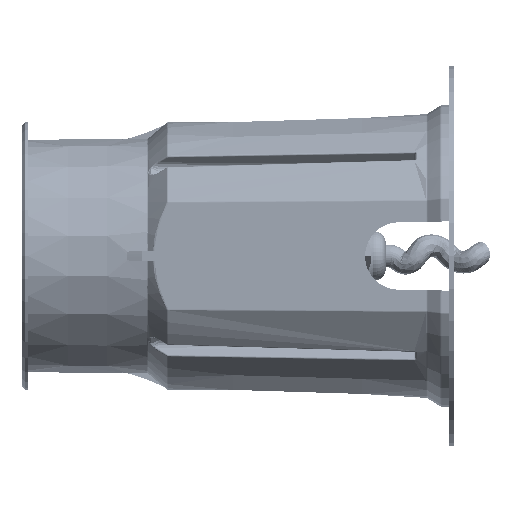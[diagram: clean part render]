
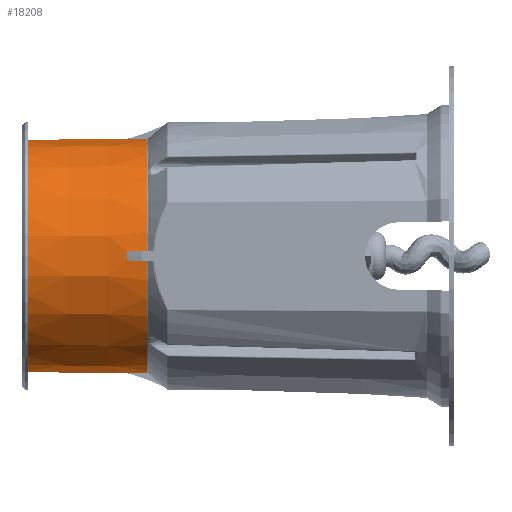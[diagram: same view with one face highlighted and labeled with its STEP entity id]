
A CAD part, left-side view. The second image highlights one B-rep face of the part: STEP entity #18208.
In plain terms, the highlighted conical face has half-angle 0.5 degrees and reference radius 41.518 mm.
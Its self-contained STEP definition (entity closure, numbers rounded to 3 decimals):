
#2160=CARTESIAN_POINT('',(0.,173.697,0.));
#2161=DIRECTION('',(0.,1.,0.));
#2162=DIRECTION('',(-0.999,0.,0.041));
#2163=AXIS2_PLACEMENT_3D('',#2160,#2161,#2162);
#2241=DIRECTION('',(0.,-1.,0.009));
#2242=VECTOR('',#2241,35.073);
#2243=CARTESIAN_POINT('',(0.,215.752,41.334));
#2244=LINE('',#2243,#2242);
#2245=CARTESIAN_POINT('',(-1.579,180.68,41.61));
#2246=CARTESIAN_POINT('',(-1.62,178.352,41.629));
#2247=CARTESIAN_POINT('',(-1.662,176.025,41.648));
#2248=CARTESIAN_POINT('',(-1.703,173.697,41.666));
#2250=CARTESIAN_POINT('',(-41.666,173.697,1.703));
#2251=CARTESIAN_POINT('',(-41.648,176.025,1.662));
#2252=CARTESIAN_POINT('',(-41.629,178.352,1.62));
#2253=CARTESIAN_POINT('',(-41.61,180.68,1.579));
#2255=CARTESIAN_POINT('',(-41.61,180.68,
-1.579));
#2256=CARTESIAN_POINT('',(-41.629,178.352,
-1.62));
#2257=CARTESIAN_POINT('',(-41.648,176.025,-1.662));
#2258=CARTESIAN_POINT('',(-41.666,173.697,
-1.703));
#2260=CARTESIAN_POINT('',(-1.703,173.697,
-41.666));
#2261=CARTESIAN_POINT('',(-1.662,176.025,
-41.648));
#2262=CARTESIAN_POINT('',(-1.62,178.352,
-41.629));
#2263=CARTESIAN_POINT('',(-1.579,180.68,
-41.61));
#2270=CARTESIAN_POINT('',(0.,215.752,0.));
#2271=DIRECTION('',(0.,-1.,0.));
#2272=DIRECTION('',(0.,0.,1.));
#2273=AXIS2_PLACEMENT_3D('',#2270,#2271,#2272);
#2315=DIRECTION('',(0.,-1.,-0.009));
#2316=VECTOR('',#2315,35.073);
#2317=CARTESIAN_POINT('',(0.,215.752,
-41.334));
#2318=LINE('',#2317,#2316);
#2354=CARTESIAN_POINT('',(0.,180.68,
0.));
#2355=DIRECTION('',(0.,1.,0.));
#2356=DIRECTION('',(0.,0.,-1.));
#2357=AXIS2_PLACEMENT_3D('',#2354,#2355,#2356);
#2438=CARTESIAN_POINT('',(0.,173.697,0.));
#2439=DIRECTION('',(0.,1.,0.));
#2440=DIRECTION('',(-0.041,0.,-0.999));
#2441=AXIS2_PLACEMENT_3D('',#2438,#2439,#2440);
#2448=CARTESIAN_POINT('',(-1.703,173.697,
-41.666));
#2460=CARTESIAN_POINT('',(-1.579,180.68,
-41.61));
#2488=CARTESIAN_POINT('',(0.,180.68,
0.));
#2489=DIRECTION('',(0.,1.,0.));
#2490=DIRECTION('',(-0.999,0.,-0.038));
#2491=AXIS2_PLACEMENT_3D('',#2488,#2489,#2490);
#3973=CARTESIAN_POINT('',(0.,180.68,
0.));
#3974=DIRECTION('',(0.,1.,0.));
#3975=DIRECTION('',(-0.038,0.,0.999));
#3976=AXIS2_PLACEMENT_3D('',#3973,#3974,#3975);
#14736=VERTEX_POINT('',#2448);
#14737=CARTESIAN_POINT('',(-41.666,173.697,
-1.703));
#14738=VERTEX_POINT('',#14737);
#14739=VERTEX_POINT('',#2460);
#14741=CARTESIAN_POINT('',(0.,180.68,-41.64));
#14742=VERTEX_POINT('',#14741);
#14743=CARTESIAN_POINT('',(0.,215.752,-41.334));
#14744=CARTESIAN_POINT('',(0.,215.752,
41.334));
#14745=VERTEX_POINT('',#14743);
#14746=VERTEX_POINT('',#14744);
#14753=CARTESIAN_POINT('',(0.,180.68,
41.64));
#14754=VERTEX_POINT('',#14753);
#14771=CARTESIAN_POINT('',(-1.579,180.68,
41.61));
#14772=VERTEX_POINT('',#14771);
#14773=VERTEX_POINT('',#2248);
#14774=CARTESIAN_POINT('',(-41.666,173.697,
1.703));
#14775=VERTEX_POINT('',#14774);
#14776=VERTEX_POINT('',#2253);
#14777=CARTESIAN_POINT('',(-41.61,180.68,
-1.579));
#14778=VERTEX_POINT('',#14777);
#18180=CARTESIAN_POINT('',(0.,194.724,0.));
#18181=DIRECTION('',(0.,-1.,0.));
#18182=DIRECTION('',(0.,0.,-1.));
#18183=AXIS2_PLACEMENT_3D('',#18180,#18181,#18182);
#18184=CONICAL_SURFACE('',#18183,41.518,0.5);
#18186=ORIENTED_EDGE('',*,*,#18185,.F.);
#18188=ORIENTED_EDGE('',*,*,#18187,.T.);
#18190=ORIENTED_EDGE('',*,*,#18189,.F.);
#18191=ORIENTED_EDGE('',*,*,#18172,.T.);
#18192=ORIENTED_EDGE('',*,*,#18029,.F.);
#18193=ORIENTED_EDGE('',*,*,#18015,.T.);
#18195=ORIENTED_EDGE('',*,*,#18194,.F.);
#18197=ORIENTED_EDGE('',*,*,#18196,.T.);
#18199=ORIENTED_EDGE('',*,*,#18198,.F.);
#18201=ORIENTED_EDGE('',*,*,#18200,.T.);
#18203=ORIENTED_EDGE('',*,*,#18202,.F.);
#18205=ORIENTED_EDGE('',*,*,#18204,.F.);
#18206=EDGE_LOOP('',(#18186,#18188,#18190,#18191,#18192,#18193,#18195,#18197,
#18199,#18201,#18203,#18205));
#18207=FACE_OUTER_BOUND('',#18206,.F.);
#18208=ADVANCED_FACE('',(#18207),#18184,.T.);
#2164=CIRCLE('',#2163,41.701);
#2249=B_SPLINE_CURVE_WITH_KNOTS('',3,(#2245,#2246,#2247,#2248),.UNSPECIFIED.,
.F.,.F.,(4,4),(0.,1.),.UNSPECIFIED.);
#2254=B_SPLINE_CURVE_WITH_KNOTS('',3,(#2250,#2251,#2252,#2253),.UNSPECIFIED.,
.F.,.F.,(4,4),(0.,1.),.UNSPECIFIED.);
#2259=B_SPLINE_CURVE_WITH_KNOTS('',3,(#2255,#2256,#2257,#2258),.UNSPECIFIED.,
.F.,.F.,(4,4),(0.,1.),.UNSPECIFIED.);
#2264=B_SPLINE_CURVE_WITH_KNOTS('',3,(#2260,#2261,#2262,#2263),.UNSPECIFIED.,
.F.,.F.,(4,4),(0.,1.),.UNSPECIFIED.);
#2274=CIRCLE('',#2273,41.334);
#2358=CIRCLE('',#2357,41.64);
#2442=CIRCLE('',#2441,41.701);
#2492=CIRCLE('',#2491,41.64);
#3977=CIRCLE('',#3976,41.64);
#18015=EDGE_CURVE('',#14775,#14776,#2254,.T.);
#18029=EDGE_CURVE('',#14775,#14773,#2164,.T.);
#18172=EDGE_CURVE('',#14772,#14773,#2249,.T.);
#18185=EDGE_CURVE('',#14746,#14745,#2274,.T.);
#18187=EDGE_CURVE('',#14746,#14754,#2244,.T.);
#18189=EDGE_CURVE('',#14772,#14754,#3977,.T.);
#18194=EDGE_CURVE('',#14778,#14776,#2492,.T.);
#18196=EDGE_CURVE('',#14778,#14738,#2259,.T.);
#18198=EDGE_CURVE('',#14736,#14738,#2442,.T.);
#18200=EDGE_CURVE('',#14736,#14739,#2264,.T.);
#18202=EDGE_CURVE('',#14742,#14739,#2358,.T.);
#18204=EDGE_CURVE('',#14745,#14742,#2318,.T.);
